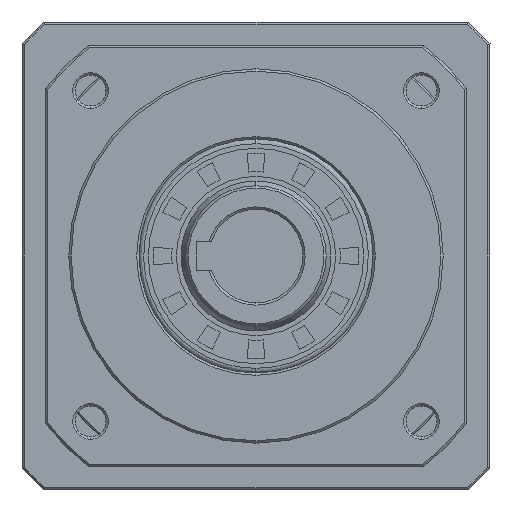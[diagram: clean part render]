
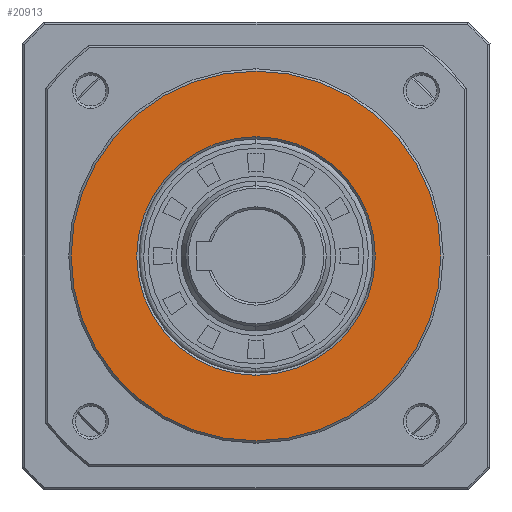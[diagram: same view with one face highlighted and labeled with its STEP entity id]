
A CAD part, left-side view. The second image highlights one B-rep face of the part: STEP entity #20913.
In plain terms, the highlighted planar face has unit normal (-1, 0, 0).
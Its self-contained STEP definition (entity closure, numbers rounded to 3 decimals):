
#1329 = AXIS2_PLACEMENT_3D ( 'NONE', #29997, #84402, #83794 ) ;
#3520 = EDGE_CURVE ( 'NONE', #28989, #71046, #40350, .T. ) ;
#6353 = ORIENTED_EDGE ( 'NONE', *, *, #35340, .F. ) ;
#8040 = CARTESIAN_POINT ( 'NONE',  ( 0., 0., 0. ) ) ;
#8622 = VERTEX_POINT ( 'NONE', #50219 ) ;
#12464 = CARTESIAN_POINT ( 'NONE',  ( 0., 0., 25.5 ) ) ;
#15028 = DIRECTION ( 'NONE',  ( -1., 0., 0. ) ) ;
#15742 = DIRECTION ( 'NONE',  ( -1., 0., 0. ) ) ;
#16204 = AXIS2_PLACEMENT_3D ( 'NONE', #76224, #83046, #21888 ) ;
#16414 = FACE_BOUND ( 'NONE', #69630, .T. ) ;
#16434 = CARTESIAN_POINT ( 'NONE',  ( 0., 0., -25.5 ) ) ;
#20421 = CIRCLE ( 'NONE', #31749, 39.5 ) ;
#20913 = ADVANCED_FACE ( 'NONE', ( #16414, #53474 ), #27828, .F. ) ;
#21888 = DIRECTION ( 'NONE',  ( 0., 0., -1. ) ) ;
#21990 = DIRECTION ( 'NONE',  ( 0., 0., -1. ) ) ;
#27513 = ORIENTED_EDGE ( 'NONE', *, *, #3520, .F. ) ;
#27828 = PLANE ( 'NONE',  #16204 ) ;
#28989 = VERTEX_POINT ( 'NONE', #12464 ) ;
#29997 = CARTESIAN_POINT ( 'NONE',  ( 0., 0., 0. ) ) ;
#30561 = DIRECTION ( 'NONE',  ( 0., 0., 1. ) ) ;
#31749 = AXIS2_PLACEMENT_3D ( 'NONE', #8040, #15742, #21990 ) ;
#35340 = EDGE_CURVE ( 'NONE', #71046, #28989, #62304, .T. ) ;
#36493 = CIRCLE ( 'NONE', #1329, 39.5 ) ;
#39944 = ORIENTED_EDGE ( 'NONE', *, *, #68740, .T. ) ;
#40350 = CIRCLE ( 'NONE', #57533, 25.5 ) ;
#50219 = CARTESIAN_POINT ( 'NONE',  ( 0., 0., 39.5 ) ) ;
#50627 = CARTESIAN_POINT ( 'NONE',  ( 0., 0., -39.5 ) ) ;
#53474 = FACE_OUTER_BOUND ( 'NONE', #69599, .T. ) ;
#55018 = DIRECTION ( 'NONE',  ( 0., 0., 1. ) ) ;
#57533 = AXIS2_PLACEMENT_3D ( 'NONE', #82141, #15028, #55018 ) ;
#59021 = DIRECTION ( 'NONE',  ( -1., 0., 0. ) ) ;
#60244 = VERTEX_POINT ( 'NONE', #50627 ) ;
#62304 = CIRCLE ( 'NONE', #83430, 25.5 ) ;
#67151 = ORIENTED_EDGE ( 'NONE', *, *, #74514, .T. ) ;
#68740 = EDGE_CURVE ( 'NONE', #8622, #60244, #20421, .T. ) ;
#69599 = EDGE_LOOP ( 'NONE', ( #67151, #39944 ) ) ;
#69630 = EDGE_LOOP ( 'NONE', ( #27513, #6353 ) ) ;
#71046 = VERTEX_POINT ( 'NONE', #16434 ) ;
#74514 = EDGE_CURVE ( 'NONE', #60244, #8622, #36493, .T. ) ;
#76224 = CARTESIAN_POINT ( 'NONE',  ( 0., -39.974, 39.974 ) ) ;
#82141 = CARTESIAN_POINT ( 'NONE',  ( 0., 0., 0. ) ) ;
#83046 = DIRECTION ( 'NONE',  ( 1., 0., 0. ) ) ;
#83430 = AXIS2_PLACEMENT_3D ( 'NONE', #86138, #59021, #30561 ) ;
#83794 = DIRECTION ( 'NONE',  ( 0., 0., -1. ) ) ;
#84402 = DIRECTION ( 'NONE',  ( -1., 0., 0. ) ) ;
#86138 = CARTESIAN_POINT ( 'NONE',  ( 0., 0., 0. ) ) ;
